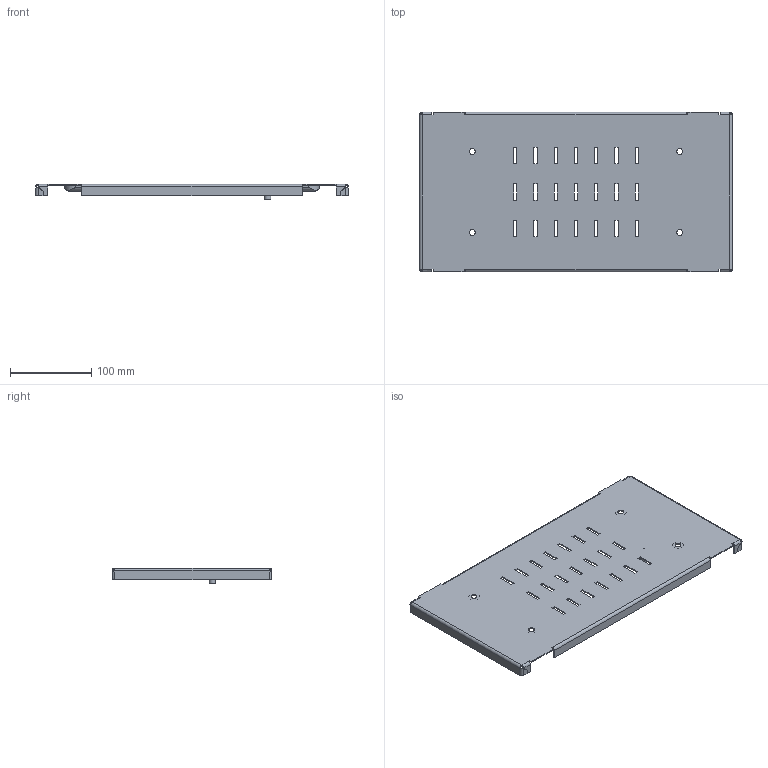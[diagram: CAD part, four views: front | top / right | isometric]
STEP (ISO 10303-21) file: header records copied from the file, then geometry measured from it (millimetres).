
FILE_DESCRIPTION(('STEP AP203'), '1');
FILE_NAME('Ïàíåëü ëèöåâàÿ ïåðôîðèðîâàííàÿ 200õ400 ìì OptiBox M 419512 ÊÝÀÇ', '', ('UNSPECIFIED'), ('UNSPECIFIED'), 'C3D Converter', 'C3D Toolkit', '');
FILE_SCHEMA(('CONFIG_CONTROL_DESIGN'));
Length unit declared in the file: millimetre
Bounding box: 386.4 x 197 x 18.9 mm (x, y, z)
Volume: 187348 mm3; surface area: 206835.6 mm2
Topology: 3 solids, 3 shells, 252 faces, 637 edges, 398 vertices
Faces by surface type: plane 193, cylinder 51, bspline 8
Full cylindrical faces by diameter (mm): 0.75 x1, 1 x1, 5 x2, 7.3 x4, 8 x1, 9.3 x1, 13 x1, 13.5 x4
Entity records: 8596 total; most frequent: CARTESIAN_POINT 2509, ORIENTED_EDGE 1244, DIRECTION 1146, EDGE_CURVE 622, LINE 516, VECTOR 516, VERTEX_POINT 398, EDGE_LOOP 330
